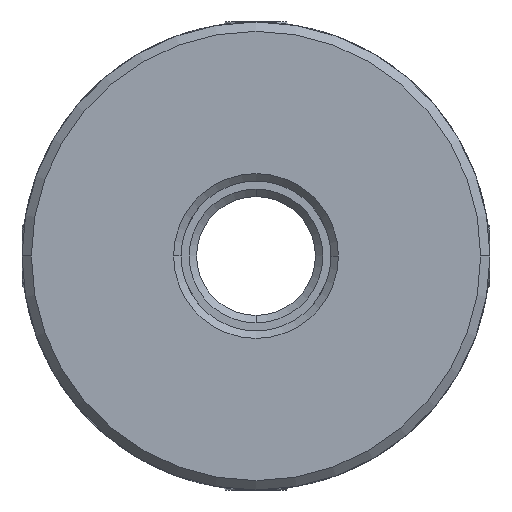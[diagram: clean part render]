
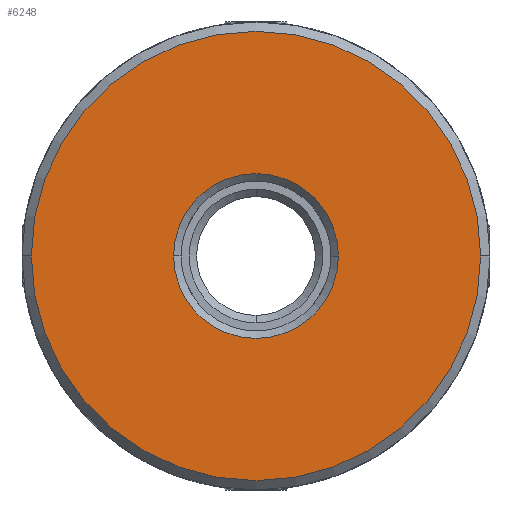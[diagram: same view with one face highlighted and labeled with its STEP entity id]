
A CAD part, front view. The second image highlights one B-rep face of the part: STEP entity #6248.
In plain terms, the highlighted planar face has unit normal (0, -1, 0).
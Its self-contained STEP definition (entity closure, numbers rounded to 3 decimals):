
#722 = VERTEX_POINT ( 'NONE', #8076 ) ;
#1221 = ORIENTED_EDGE ( 'NONE', *, *, #1520, .T. ) ;
#1313 = DIRECTION ( 'NONE',  ( 0., 1., 0. ) ) ;
#1347 = CARTESIAN_POINT ( 'NONE',  ( -4.4, -28., 0. ) ) ;
#1352 = DIRECTION ( 'NONE',  ( 0., 1., 0. ) ) ;
#1400 = DIRECTION ( 'NONE',  ( -1., 0., 0. ) ) ;
#1520 = EDGE_CURVE ( 'NONE', #9197, #4387, #4845, .T. ) ;
#1890 = EDGE_LOOP ( 'NONE', ( #3519, #1932 ) ) ;
#1932 = ORIENTED_EDGE ( 'NONE', *, *, #6617, .T. ) ;
#2066 = AXIS2_PLACEMENT_3D ( 'NONE', #6691, #1352, #4309 ) ;
#2241 = AXIS2_PLACEMENT_3D ( 'NONE', #7335, #9090, #5831 ) ;
#2626 = EDGE_LOOP ( 'NONE', ( #6967, #1221 ) ) ;
#2769 = AXIS2_PLACEMENT_3D ( 'NONE', #2835, #8936, #1400 ) ;
#2835 = CARTESIAN_POINT ( 'NONE',  ( 0., -28., 0. ) ) ;
#2958 = DIRECTION ( 'NONE',  ( 0., -1., 0. ) ) ;
#3117 = EDGE_CURVE ( 'NONE', #722, #4970, #5679, .T. ) ;
#3255 = CARTESIAN_POINT ( 'NONE',  ( 4.4, -28., 0. ) ) ;
#3282 = CIRCLE ( 'NONE', #3865, 4.4 ) ;
#3519 = ORIENTED_EDGE ( 'NONE', *, *, #3117, .T. ) ;
#3682 = CARTESIAN_POINT ( 'NONE',  ( 0., -28., 0. ) ) ;
#3865 = AXIS2_PLACEMENT_3D ( 'NONE', #3682, #1313, #7499 ) ;
#4309 = DIRECTION ( 'NONE',  ( -1., 0., 0. ) ) ;
#4327 = FACE_OUTER_BOUND ( 'NONE', #1890, .T. ) ;
#4387 = VERTEX_POINT ( 'NONE', #3255 ) ;
#4845 = CIRCLE ( 'NONE', #2241, 4.4 ) ;
#4970 = VERTEX_POINT ( 'NONE', #9559 ) ;
#5149 = CIRCLE ( 'NONE', #2769, 12. ) ;
#5679 = CIRCLE ( 'NONE', #7300, 12. ) ;
#5831 = DIRECTION ( 'NONE',  ( -1., 0., 0. ) ) ;
#6248 = ADVANCED_FACE ( 'NONE', ( #4327, #7554 ), #9692, .F. ) ;
#6617 = EDGE_CURVE ( 'NONE', #4970, #722, #5149, .T. ) ;
#6691 = CARTESIAN_POINT ( 'NONE',  ( -19.597, -28., -50. ) ) ;
#6967 = ORIENTED_EDGE ( 'NONE', *, *, #9775, .T. ) ;
#7300 = AXIS2_PLACEMENT_3D ( 'NONE', #7533, #2958, #8304 ) ;
#7335 = CARTESIAN_POINT ( 'NONE',  ( 0., -28., 0. ) ) ;
#7499 = DIRECTION ( 'NONE',  ( -1., 0., 0. ) ) ;
#7533 = CARTESIAN_POINT ( 'NONE',  ( 0., -28., 0. ) ) ;
#7554 = FACE_BOUND ( 'NONE', #2626, .T. ) ;
#8076 = CARTESIAN_POINT ( 'NONE',  ( -12., -28., 0. ) ) ;
#8304 = DIRECTION ( 'NONE',  ( -1., 0., 0. ) ) ;
#8936 = DIRECTION ( 'NONE',  ( 0., -1., 0. ) ) ;
#9090 = DIRECTION ( 'NONE',  ( 0., 1., 0. ) ) ;
#9197 = VERTEX_POINT ( 'NONE', #1347 ) ;
#9559 = CARTESIAN_POINT ( 'NONE',  ( 12., -28., 0. ) ) ;
#9692 = PLANE ( 'NONE',  #2066 ) ;
#9775 = EDGE_CURVE ( 'NONE', #4387, #9197, #3282, .T. ) ;
